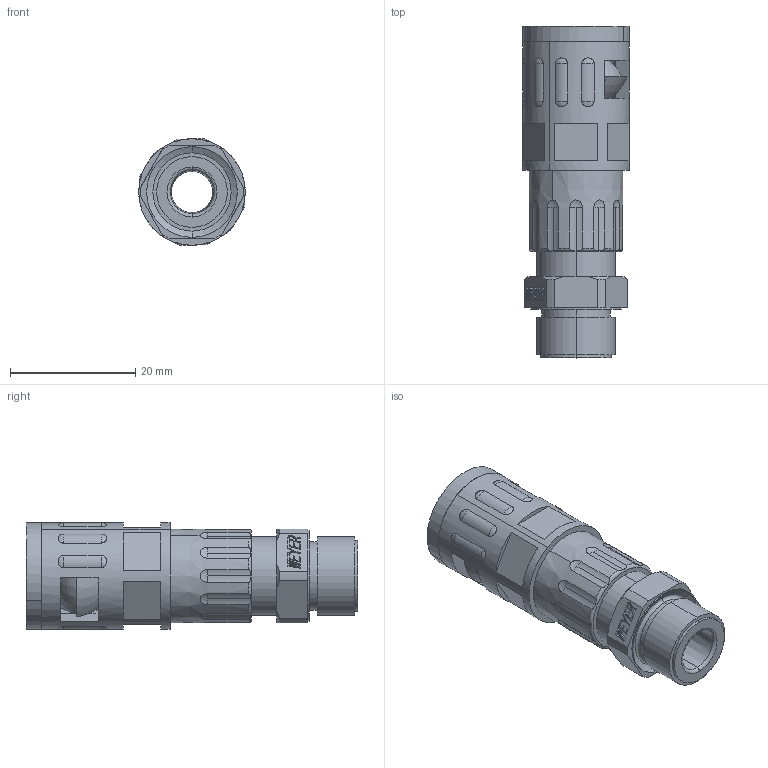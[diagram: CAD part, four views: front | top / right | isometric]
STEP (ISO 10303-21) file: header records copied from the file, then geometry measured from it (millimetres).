
FILE_DESCRIPTION (( 'STEP AP203' ), '1' );
FILE_NAME ('WQGZ-P07-AD10.0.STEP', '2019-02-27T07:01:18', ( '' ), ( '' ), 'SwSTEP 2.0', 'SolidWorks 2016', '' );
FILE_SCHEMA (( 'CONFIG_CONTROL_DESIGN' ));
Length unit declared in the file: millimetre
Products named in the file (7): HSK-P07-01; NSK-AD10.0; CTH-P07; WQG2-Tr12-AD10.0; WQGZ-P07-AD10.0; GFD-AD10.0
Assembly tree (6 placements, depth 3):
  WQGZ-P07-AD10.0
    HSK-P07-01
    CTH-P07
    WQG2-Tr12-AD10.0
      WQG2-Tr12-AD10.0
      GFD-AD10.0
      NSK-AD10.0
Bounding box: 17 x 53 x 17.05 mm (x, y, z)
Volume: 5553.8 mm3; surface area: 8069.5 mm2
Topology: 4 solids, 7 shells, 481 faces, 1266 edges, 810 vertices
Faces by surface type: plane 217, cone 79, cylinder 78, torus 45, bspline 42, sphere 20
Entity records: 17926 total; most frequent: CARTESIAN_POINT 5875, ORIENTED_EDGE 2472, DIRECTION 2193, EDGE_CURVE 1238, AXIS2_PLACEMENT_3D 816, VERTEX_POINT 802, LINE 561, VECTOR 561
